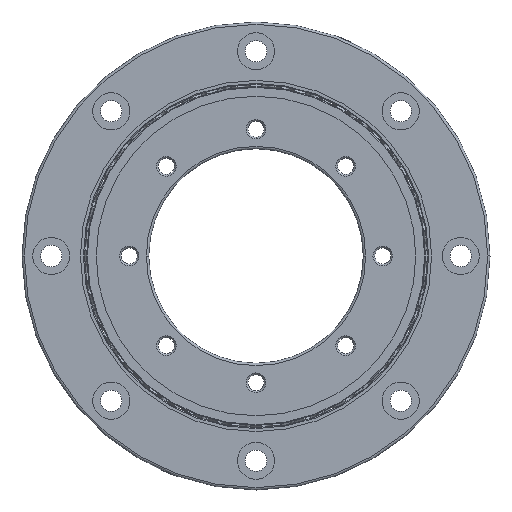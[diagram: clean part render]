
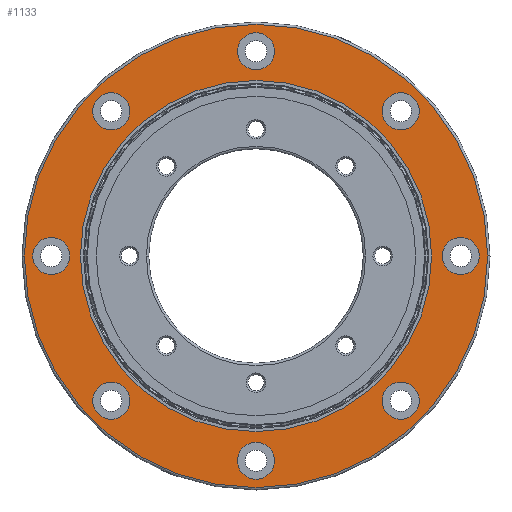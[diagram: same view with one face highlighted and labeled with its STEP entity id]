
A CAD part, front view. The second image highlights one B-rep face of the part: STEP entity #1133.
In plain terms, the highlighted planar face has unit normal (0, -1, 0).
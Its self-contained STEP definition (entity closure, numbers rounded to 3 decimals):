
#1133=ADVANCED_FACE('FACE285',(#2624,#2625,#2626,#2627,#2628,#2629,#2630,#2631,#2632,#2633),#2634,.T.);
#2624=FACE_BOUND('',#4492,.T.);
#2625=FACE_BOUND('',#4493,.T.);
#2626=FACE_BOUND('',#4494,.T.);
#2627=FACE_BOUND('',#4495,.T.);
#2628=FACE_BOUND('',#4496,.T.);
#2629=FACE_BOUND('',#4497,.T.);
#2630=FACE_BOUND('',#4498,.T.);
#2631=FACE_BOUND('',#4499,.T.);
#2632=FACE_OUTER_BOUND('',#4500,.T.);
#2633=FACE_BOUND('',#4501,.T.);
#2634=PLANE('',#4502);
#4492=EDGE_LOOP('',(#7821,#7822));
#4493=EDGE_LOOP('',(#7823,#7824));
#4494=EDGE_LOOP('',(#7825,#7826));
#4495=EDGE_LOOP('',(#7827,#7828));
#4496=EDGE_LOOP('',(#7829,#7830));
#4497=EDGE_LOOP('',(#7831,#7832));
#4498=EDGE_LOOP('',(#7833,#7834));
#4499=EDGE_LOOP('',(#7835,#7836));
#4500=EDGE_LOOP('',(#7837,#7838));
#4501=EDGE_LOOP('',(#7839,#7840));
#4502=AXIS2_PLACEMENT_3D('',#7841,#7842,#7843);
#7821=ORIENTED_EDGE('',*,*,#11042,.T.);
#7822=ORIENTED_EDGE('',*,*,#11039,.T.);
#7823=ORIENTED_EDGE('',*,*,#11036,.T.);
#7824=ORIENTED_EDGE('',*,*,#11033,.T.);
#7825=ORIENTED_EDGE('',*,*,#11030,.T.);
#7826=ORIENTED_EDGE('',*,*,#11027,.T.);
#7827=ORIENTED_EDGE('',*,*,#11024,.T.);
#7828=ORIENTED_EDGE('',*,*,#11021,.T.);
#7829=ORIENTED_EDGE('',*,*,#11018,.T.);
#7830=ORIENTED_EDGE('',*,*,#11015,.T.);
#7831=ORIENTED_EDGE('',*,*,#11012,.T.);
#7832=ORIENTED_EDGE('',*,*,#11009,.T.);
#7833=ORIENTED_EDGE('',*,*,#11006,.T.);
#7834=ORIENTED_EDGE('',*,*,#11003,.T.);
#7835=ORIENTED_EDGE('',*,*,#11000,.T.);
#7836=ORIENTED_EDGE('',*,*,#10997,.T.);
#7837=ORIENTED_EDGE('',*,*,#11193,.F.);
#7838=ORIENTED_EDGE('',*,*,#11194,.F.);
#7839=ORIENTED_EDGE('',*,*,#11188,.T.);
#7840=ORIENTED_EDGE('',*,*,#11183,.T.);
#7841=CARTESIAN_POINT('',(52.213,0.,0.));
#7842=DIRECTION('',(0.0,-1.0,0.0));
#7843=DIRECTION('',(0.0,0.0,-1.0));
#10997=EDGE_CURVE('EDGE557',#13251,#13249,#13252,.T.);
#11000=EDGE_CURVE('EDGE559',#13249,#13251,#13255,.T.);
#11003=EDGE_CURVE('EDGE561',#13259,#13257,#13260,.T.);
#11006=EDGE_CURVE('EDGE563',#13257,#13259,#13263,.T.);
#11009=EDGE_CURVE('EDGE565',#13267,#13265,#13268,.T.);
#11012=EDGE_CURVE('EDGE567',#13265,#13267,#13271,.T.);
#11015=EDGE_CURVE('EDGE569',#13275,#13273,#13276,.T.);
#11018=EDGE_CURVE('EDGE571',#13273,#13275,#13279,.T.);
#11021=EDGE_CURVE('EDGE573',#13283,#13281,#13284,.T.);
#11024=EDGE_CURVE('EDGE575',#13281,#13283,#13287,.T.);
#11027=EDGE_CURVE('EDGE577',#13291,#13289,#13292,.T.);
#11030=EDGE_CURVE('EDGE579',#13289,#13291,#13295,.T.);
#11033=EDGE_CURVE('EDGE581',#13299,#13297,#13300,.T.);
#11036=EDGE_CURVE('EDGE583',#13297,#13299,#13303,.T.);
#11039=EDGE_CURVE('EDGE585',#13307,#13305,#13308,.T.);
#11042=EDGE_CURVE('EDGE587',#13305,#13307,#13311,.T.);
#11183=EDGE_CURVE('EDGE685',#13520,#13517,#13521,.T.);
#11188=EDGE_CURVE('EDGE689',#13517,#13520,#13527,.T.);
#11193=EDGE_CURVE('EDGE692',#13534,#13535,#13536,.T.);
#11194=EDGE_CURVE('EDGE693',#13535,#13534,#13537,.T.);
#13249=VERTEX_POINT('VERTEX381',#17034);
#13251=VERTEX_POINT('VERTEX382',#17037);
#13252=CIRCLE('',#17038,4.75);
#13255=CIRCLE('',#17042,4.75);
#13257=VERTEX_POINT('VERTEX383',#17044);
#13259=VERTEX_POINT('VERTEX384',#17047);
#13260=CIRCLE('',#17048,4.75);
#13263=CIRCLE('',#17052,4.75);
#13265=VERTEX_POINT('VERTEX385',#17054);
#13267=VERTEX_POINT('VERTEX386',#17057);
#13268=CIRCLE('',#17058,4.75);
#13271=CIRCLE('',#17062,4.75);
#13273=VERTEX_POINT('VERTEX387',#17064);
#13275=VERTEX_POINT('VERTEX388',#17067);
#13276=CIRCLE('',#17068,4.75);
#13279=CIRCLE('',#17072,4.75);
#13281=VERTEX_POINT('VERTEX389',#17074);
#13283=VERTEX_POINT('VERTEX390',#17077);
#13284=CIRCLE('',#17078,4.75);
#13287=CIRCLE('',#17082,4.75);
#13289=VERTEX_POINT('VERTEX391',#17084);
#13291=VERTEX_POINT('VERTEX392',#17087);
#13292=CIRCLE('',#17088,4.75);
#13295=CIRCLE('',#17092,4.75);
#13297=VERTEX_POINT('VERTEX393',#17094);
#13299=VERTEX_POINT('VERTEX394',#17097);
#13300=CIRCLE('',#17098,4.75);
#13303=CIRCLE('',#17102,4.75);
#13305=VERTEX_POINT('VERTEX395',#17104);
#13307=VERTEX_POINT('VERTEX396',#17107);
#13308=CIRCLE('',#17108,4.75);
#13311=CIRCLE('',#17112,4.75);
#13517=VERTEX_POINT('VERTEX463',#17768);
#13520=VERTEX_POINT('VERTEX465',#17772);
#13521=CIRCLE('',#17773,45.025);
#13527=CIRCLE('',#17780,45.025);
#13534=VERTEX_POINT('VERTEX469',#17787);
#13535=VERTEX_POINT('VERTEX470',#17788);
#13536=CIRCLE('',#17789,59.4);
#13537=CIRCLE('',#17790,59.4);
#17034=CARTESIAN_POINT('',(-4.75,0.,52.5));
#17037=CARTESIAN_POINT('',(4.75,0.,52.5));
#17038=AXIS2_PLACEMENT_3D('',#22706,#22707,#22708);
#17042=AXIS2_PLACEMENT_3D('',#22710,#22711,#22712);
#17044=CARTESIAN_POINT('',(33.764,0.,40.482));
#17047=CARTESIAN_POINT('',(40.482,0.,33.764));
#17048=AXIS2_PLACEMENT_3D('',#22714,#22715,#22716);
#17052=AXIS2_PLACEMENT_3D('',#22718,#22719,#22720);
#17054=CARTESIAN_POINT('',(52.5,0.,4.75));
#17057=CARTESIAN_POINT('',(52.5,0.,-4.75));
#17058=AXIS2_PLACEMENT_3D('',#22722,#22723,#22724);
#17062=AXIS2_PLACEMENT_3D('',#22726,#22727,#22728);
#17064=CARTESIAN_POINT('',(40.482,0.,-33.764));
#17067=CARTESIAN_POINT('',(33.764,0.,-40.482));
#17068=AXIS2_PLACEMENT_3D('',#22730,#22731,#22732);
#17072=AXIS2_PLACEMENT_3D('',#22734,#22735,#22736);
#17074=CARTESIAN_POINT('',(4.75,0.,-52.5));
#17077=CARTESIAN_POINT('',(-4.75,0.,-52.5));
#17078=AXIS2_PLACEMENT_3D('',#22738,#22739,#22740);
#17082=AXIS2_PLACEMENT_3D('',#22742,#22743,#22744);
#17084=CARTESIAN_POINT('',(-33.764,0.,-40.482));
#17087=CARTESIAN_POINT('',(-40.482,0.,-33.764));
#17088=AXIS2_PLACEMENT_3D('',#22746,#22747,#22748);
#17092=AXIS2_PLACEMENT_3D('',#22750,#22751,#22752);
#17094=CARTESIAN_POINT('',(-52.5,0.,-4.75));
#17097=CARTESIAN_POINT('',(-52.5,0.,4.75));
#17098=AXIS2_PLACEMENT_3D('',#22754,#22755,#22756);
#17102=AXIS2_PLACEMENT_3D('',#22758,#22759,#22760);
#17104=CARTESIAN_POINT('',(-40.482,0.,33.764));
#17107=CARTESIAN_POINT('',(-33.764,0.,40.482));
#17108=AXIS2_PLACEMENT_3D('',#22762,#22763,#22764);
#17112=AXIS2_PLACEMENT_3D('',#22766,#22767,#22768);
#17768=CARTESIAN_POINT('',(45.025,0.0,0.));
#17772=CARTESIAN_POINT('',(-45.025,0.0,0.));
#17773=AXIS2_PLACEMENT_3D('',#22890,#22891,#22892);
#17780=AXIS2_PLACEMENT_3D('',#22900,#22901,#22902);
#17787=CARTESIAN_POINT('',(59.4,0.,0.));
#17788=CARTESIAN_POINT('',(-59.4,0.,0.));
#17789=AXIS2_PLACEMENT_3D('',#22909,#22910,#22911);
#17790=AXIS2_PLACEMENT_3D('',#22912,#22913,#22914);
#22706=CARTESIAN_POINT('',(0.,0.,52.5));
#22707=DIRECTION('',(0.0,1.0,0.0));
#22708=DIRECTION('',(-1.0,0.0,0.0));
#22710=CARTESIAN_POINT('',(0.,0.,52.5));
#22711=DIRECTION('',(0.0,1.0,0.0));
#22712=DIRECTION('',(-1.0,0.0,0.0));
#22714=CARTESIAN_POINT('',(37.123,0.,37.123));
#22715=DIRECTION('',(0.,1.0,0.));
#22716=DIRECTION('',(-0.707,0.,0.707));
#22718=CARTESIAN_POINT('',(37.123,0.,37.123));
#22719=DIRECTION('',(0.,1.0,0.));
#22720=DIRECTION('',(-0.707,0.,0.707));
#22722=CARTESIAN_POINT('',(52.5,0.,0.));
#22723=DIRECTION('',(0.0,1.0,0.));
#22724=DIRECTION('',(0.0,0.,1.0));
#22726=CARTESIAN_POINT('',(52.5,0.,0.));
#22727=DIRECTION('',(0.0,1.0,0.));
#22728=DIRECTION('',(0.0,0.,1.0));
#22730=CARTESIAN_POINT('',(37.123,0.,-37.123));
#22731=DIRECTION('',(0.,1.0,0.));
#22732=DIRECTION('',(0.707,0.,0.707));
#22734=CARTESIAN_POINT('',(37.123,0.,-37.123));
#22735=DIRECTION('',(0.,1.0,0.));
#22736=DIRECTION('',(0.707,0.,0.707));
#22738=CARTESIAN_POINT('',(0.,0.,-52.5));
#22739=DIRECTION('',(-0.0,1.0,0.0));
#22740=DIRECTION('',(1.0,0.0,0.0));
#22742=CARTESIAN_POINT('',(0.,0.,-52.5));
#22743=DIRECTION('',(-0.0,1.0,0.0));
#22744=DIRECTION('',(1.0,0.0,0.0));
#22746=CARTESIAN_POINT('',(-37.123,0.,-37.123));
#22747=DIRECTION('',(0.,1.0,0.));
#22748=DIRECTION('',(0.707,0.,-0.707));
#22750=CARTESIAN_POINT('',(-37.123,0.,-37.123));
#22751=DIRECTION('',(0.,1.0,0.));
#22752=DIRECTION('',(0.707,0.,-0.707));
#22754=CARTESIAN_POINT('',(-52.5,0.,0.));
#22755=DIRECTION('',(0.0,1.0,0.));
#22756=DIRECTION('',(0.0,0.,-1.0));
#22758=CARTESIAN_POINT('',(-52.5,0.,0.));
#22759=DIRECTION('',(0.0,1.0,0.));
#22760=DIRECTION('',(0.0,0.,-1.0));
#22762=CARTESIAN_POINT('',(-37.123,0.,37.123));
#22763=DIRECTION('',(0.,1.0,0.));
#22764=DIRECTION('',(-0.707,0.,-0.707));
#22766=CARTESIAN_POINT('',(-37.123,0.,37.123));
#22767=DIRECTION('',(0.,1.0,0.));
#22768=DIRECTION('',(-0.707,0.,-0.707));
#22890=CARTESIAN_POINT('',(0.0,0.0,0.0));
#22891=DIRECTION('',(-0.0,1.0,0.0));
#22892=DIRECTION('',(1.0,0.0,0.));
#22900=CARTESIAN_POINT('',(0.0,0.0,0.0));
#22901=DIRECTION('',(-0.0,1.0,0.0));
#22902=DIRECTION('',(1.0,0.0,0.));
#22909=CARTESIAN_POINT('',(0.0,0.,0.0));
#22910=DIRECTION('',(-0.0,1.0,0.0));
#22911=DIRECTION('',(1.0,0.0,0.));
#22912=CARTESIAN_POINT('',(0.0,0.,0.0));
#22913=DIRECTION('',(-0.0,1.0,0.0));
#22914=DIRECTION('',(1.0,0.0,0.));
